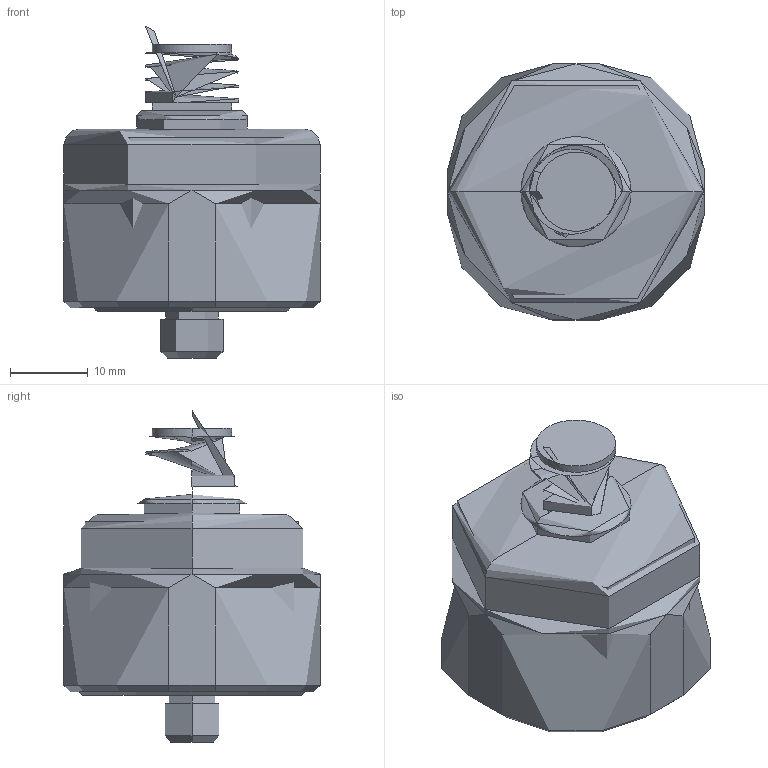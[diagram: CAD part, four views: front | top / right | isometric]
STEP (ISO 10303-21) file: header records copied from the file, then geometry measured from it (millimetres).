
FILE_DESCRIPTION (( 'STEP AP203' ), '1' );
FILE_NAME ('R0310H.STEP', '2025-10-11T01:22:55', ( '' ), ( '' ), 'SwSTEP 2.0', 'SolidWorks 2022', '' );
FILE_SCHEMA (( 'CONFIG_CONTROL_DESIGN' ));
Length unit declared in the file: millimetre
Products named in the file (4): R0310H; M12_X2_710A7EBF63D25934_X0_; _X2_4E0A76D6_X0_; _X2_5E955EA7_X0_
Assembly tree (3 placements, depth 2):
  R0310H
    _X2_5E955EA7_X0_
    _X2_4E0A76D6_X0_
    M12_X2_710A7EBF63D25934_X0_
Bounding box: 33 x 33 x 42.78 mm (x, y, z)
Topology: 2 solids, 5 shells, 74 faces, 160 edges, 102 vertices
Faces by surface type: cylinder 32, plane 24, cone 14, bspline 4
Full cylindrical faces by diameter (mm): 12 x1
Entity records: 6876 total; most frequent: CARTESIAN_POINT 4923, ORIENTED_EDGE 320, DIRECTION 310, EDGE_CURVE 161, AXIS2_PLACEMENT_3D 125, VERTEX_POINT 101, EDGE_LOOP 83, ADVANCED_FACE 74
